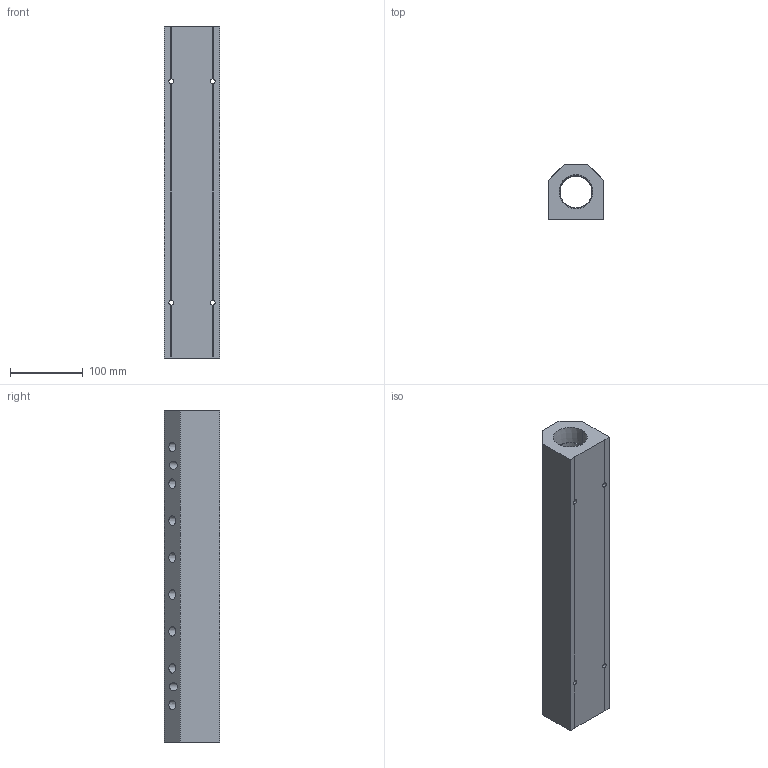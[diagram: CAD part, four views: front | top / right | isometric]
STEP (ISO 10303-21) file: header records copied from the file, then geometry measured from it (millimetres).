
FILE_DESCRIPTION (( 'STEP AP214' ), '1' );
FILE_NAME ('ALM8BCD-N4N24-457R.step', '2022-02-07T07:39:56', ( '' ), ( '' ), 'SwSTEP 2.0', 'SolidWorks 2020', '' );
FILE_SCHEMA (( 'AUTOMOTIVE_DESIGN' ));
Length unit declared in the file: millimetre
Products named in the file (1): ALM8BCD-N4N24-457R
Bounding box: 76.2 x 76.2 x 457 mm (x, y, z)
Volume: 1652956.2 mm3; surface area: 213686.3 mm2
Topology: 1 solids, 1 shells, 364 faces, 970 edges, 644 vertices
Faces by surface type: plane 231, bspline 63, cone 52, cylinder 18
Entity records: 20849 total; most frequent: CARTESIAN_POINT 8666, ORIENTED_EDGE 1940, DIRECTION 1468, EDGE_CURVE 970, LINE 696, VECTOR 696, VERTEX_POINT 644, EDGE_LOOP 458
